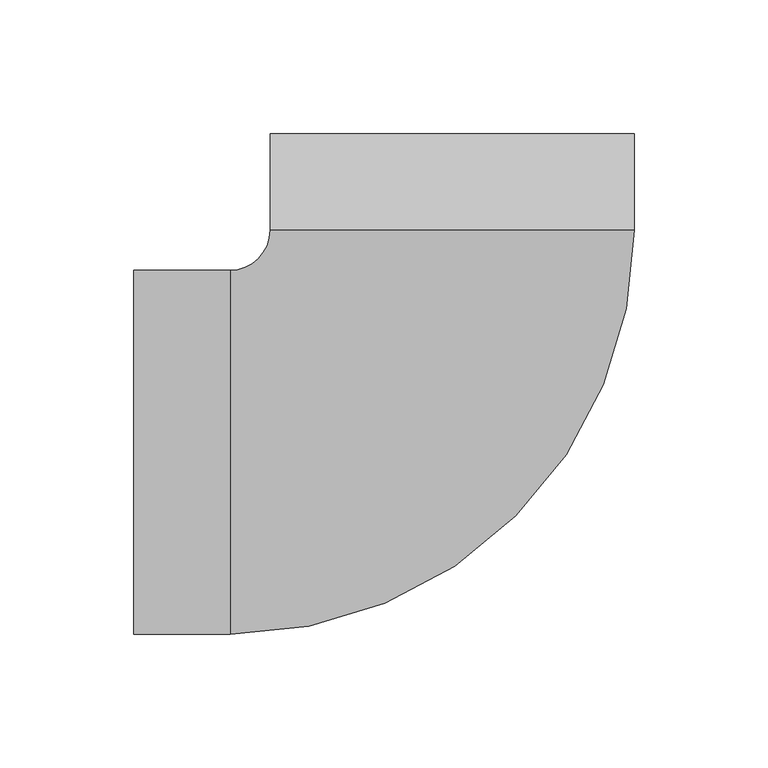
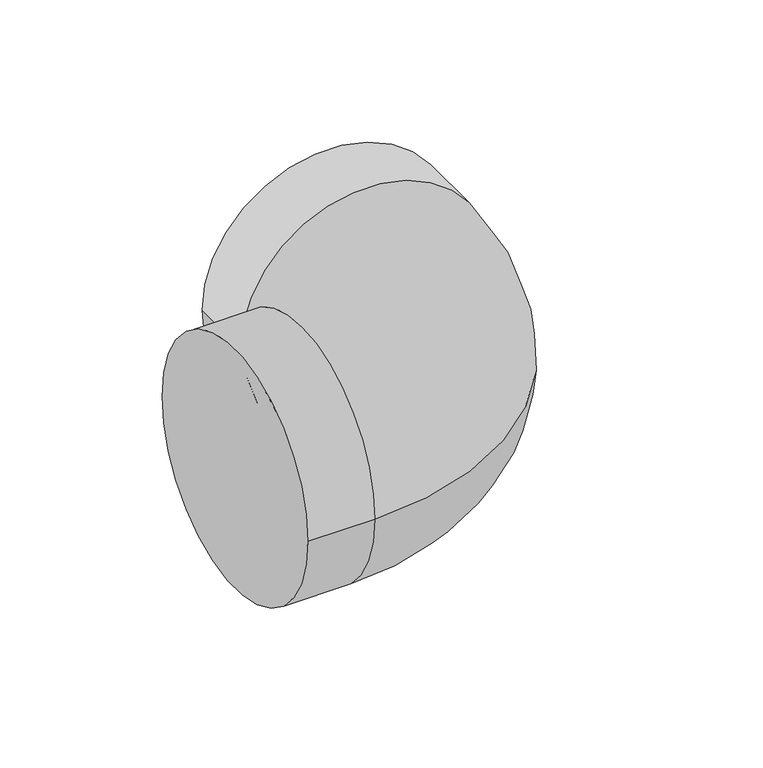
"""IFC4 building model written with IfcOpenShell, lengths in millimetres: pipe fitting geometry, PipeFitting_HTA_CPVC_Elbows : 110mm x 90°."""

import ifcopenshell
import ifcopenshell.guid

model = None  # the IFC model being written
_history = None  # IfcOwnerHistory: only IFC2X3 demands one
_inside = {}  # id of a spatial element -> (the spatial element, [elements in it])
_under = {}  # id of a project, library or spatial element -> (it, [spatial elements below it])
_declared = {}  # id of a project -> (the project, [libraries it declares])
_typed = {}  # id of a type object -> (the type object, [elements of that type])
_made_of = {}  # id of a material, layer set ... -> (it, [elements and type objects made of it])


def new_model(schema):
    """Start an empty IFC model of exactly this schema.

    Asked for "IFC4X3", IfcOpenShell would pick the latest addendum, in which some entities
    have other attributes; the version numbers below select the first issue.
    IFC2X3 requires an IfcOwnerHistory on every rooted entity: one is made here for all.
    """
    global model, _history
    if schema == "IFC4X3":
        model = ifcopenshell.file(schema_version=(4, 3, 0, 0))
    else:
        model = ifcopenshell.file(schema=schema)
    _inside.clear()
    _under.clear()
    _declared.clear()
    _typed.clear()
    _made_of.clear()
    _history = None
    if model.schema == "IFC2X3":
        org = make("IfcOrganization", Name="unknown")
        user = make(
            "IfcPersonAndOrganization",
            ThePerson=make("IfcPerson", FamilyName="unknown"),
            TheOrganization=org,
        )
        app = make(
            "IfcApplication",
            ApplicationDeveloper=org,
            Version="unknown",
            ApplicationFullName="unknown",
            ApplicationIdentifier="unknown",
        )
        _history = make(
            "IfcOwnerHistory",
            OwningUser=user,
            OwningApplication=app,
            ChangeAction="ADDED",
            CreationDate=0,
        )
    return model


def make(cls, **values):
    """One entity of the class cls with the attributes given. An attribute that is None is left unset."""
    return model.create_entity(
        cls, **{name: value for name, value in values.items() if value is not None}
    )


def rooted(cls, **values):
    """An entity with a GlobalId (a new one), such as an element, a storey or a relation."""
    return make(cls, GlobalId=ifcopenshell.guid.new(), OwnerHistory=_history, **values)


def si_unit(unit_type, name, prefix=None):
    """IfcSIUnit, for example si_unit("LENGTHUNIT", "METRE", prefix="MILLI")."""
    return make("IfcSIUnit", UnitType=unit_type, Prefix=prefix, Name=name)


def assignment(units):
    """IfcUnitAssignment: the units of a project."""
    return None if units is None else make("IfcUnitAssignment", Units=units)


def point(xyz):
    """IfcCartesianPoint."""
    return None if xyz is None else make("IfcCartesianPoint", Coordinates=xyz)


def direction(xyz):
    """IfcDirection."""
    return None if xyz is None else make("IfcDirection", DirectionRatios=xyz)


def frame(location, z_axis=None, x_axis=None):
    """IfcAxis2Placement3D, a coordinate frame: its origin and axes. An axis left out is left unset."""
    return make(
        "IfcAxis2Placement3D",
        Location=point(location),
        Axis=direction(z_axis),
        RefDirection=direction(x_axis),
    )


def origin():
    """The frame at (0, 0, 0) with its axes left unset."""
    return frame((0.0, 0.0, 0.0))


def place(relative_to, where):
    """IfcLocalPlacement: puts the frame where relative to a parent placement (None: the world)."""
    return make(
        "IfcLocalPlacement", PlacementRelTo=relative_to, RelativePlacement=where
    )


def context(
    kind, dimensions, precision=None, world=None, true_north=None, identifier=None
):
    """IfcGeometricRepresentationContext, for example the 3D "Model" context."""
    return make(
        "IfcGeometricRepresentationContext",
        ContextIdentifier=identifier,
        ContextType=kind,
        CoordinateSpaceDimension=dimensions,
        Precision=precision,
        WorldCoordinateSystem=world,
        TrueNorth=true_north,
    )


def project(units=None, contexts=None):
    """IfcProject with its units and contexts."""
    return rooted(
        "IfcProject",
        Name="project",
        RepresentationContexts=contexts,
        UnitsInContext=assignment(units),
    )


def spatial(cls, under=None, at=None, **own):
    """A site, building, storey or space (cls), placed at a placement, below another one or the project."""
    s = rooted(cls, ObjectPlacement=at, **own)
    if under is not None:
        _under.setdefault(under.id(), (under, []))[1].append(s)
    return s


def circle_curve(where, radius):
    """IfcCircle in the frame where."""
    return make("IfcCircle", Position=where, Radius=radius)


def ellipse_curve(where, semi_axis1, semi_axis2):
    """IfcEllipse in the frame where."""
    return make(
        "IfcEllipse", Position=where, SemiAxis1=semi_axis1, SemiAxis2=semi_axis2
    )


def trimmed(basis, trim1, trim2, sense, master):
    """IfcTrimmedCurve: the piece of a basis curve between two trims."""
    return make(
        "IfcTrimmedCurve",
        BasisCurve=basis,
        Trim1=trim1,
        Trim2=trim2,
        SenseAgreement=sense,
        MasterRepresentation=master,
    )


def shape(context_of_items, identifier, shape_type, items):
    """IfcShapeRepresentation: the items that make up one representation, for example the "Body"."""
    return make(
        "IfcShapeRepresentation",
        ContextOfItems=context_of_items,
        RepresentationIdentifier=identifier,
        RepresentationType=shape_type,
        Items=items,
    )


def source(mapping_origin, context_of_items, identifier, shape_type, items):
    """IfcRepresentationMap: a shape defined once, which mapped items show again and again."""
    return make(
        "IfcRepresentationMap",
        MappingOrigin=mapping_origin,
        MappedRepresentation=shape(context_of_items, identifier, shape_type, items),
    )


def transform(
    local_origin,
    x_axis=None,
    y_axis=None,
    z_axis=None,
    scale=None,
    scale2=None,
    scale3=None,
    uniform=True,
):
    """IfcCartesianTransformationOperator3D, or its non-uniform kind. x_axis, y_axis, z_axis: its Axis1, 2, 3."""
    if uniform:
        return make(
            "IfcCartesianTransformationOperator3D",
            Axis1=direction(x_axis),
            Axis2=direction(y_axis),
            LocalOrigin=point(local_origin),
            Scale=scale,
            Axis3=direction(z_axis),
        )
    return make(
        "IfcCartesianTransformationOperator3DnonUniform",
        Axis1=direction(x_axis),
        Axis2=direction(y_axis),
        LocalOrigin=point(local_origin),
        Scale=scale,
        Axis3=direction(z_axis),
        Scale2=scale2,
        Scale3=scale3,
    )


def mapped(mapping_source, mapping_target):
    """IfcMappedItem: shows the shape of a source again, moved by a transform."""
    return make(
        "IfcMappedItem", MappingSource=mapping_source, MappingTarget=mapping_target
    )


def made_of(thing, what):
    """Note that an element or type object is made of a material, layer set ...; save() writes the relation."""
    if what is not None:
        _made_of.setdefault(what.id(), (what, []))[1].append(thing)
    return thing


def element(
    cls,
    number,
    at=None,
    inside=None,
    cuts=None,
    type_object=None,
    material=None,
    context=None,
    identifier="Body",
    shape_type=None,
    held_by="IfcProductDefinitionShape",
    body=None,
    shapes=None,
    **own,
):
    """One element of the class cls, such as IfcWall. Its Tag is "e" and its number.

    at: its placement. inside: the storey or other place that contains it. cuts: it is an
    opening in that element (IfcRelVoidsElement). A single representation is given by context,
    identifier, shape_type and body (its items); several are given by shapes. held_by: the class
    of the entity that holds the representations. save() writes the other relations.
    """
    e = rooted(cls, Tag="e%d" % number, ObjectPlacement=at, **own)
    if body is not None:
        shapes = [shape(context, identifier, shape_type, body)]
    if shapes is not None:
        e.Representation = make(held_by, Representations=shapes)
    if inside is not None:
        _inside.setdefault(inside.id(), (inside, []))[1].append(e)
    if cuts is not None:
        rooted(
            "IfcRelVoidsElement", RelatingBuildingElement=cuts, RelatedOpeningElement=e
        )
    if type_object is not None:
        _typed.setdefault(type_object.id(), (type_object, []))[1].append(e)
    return made_of(e, material)


def aggregate(whole, parts):
    """IfcRelAggregates: a whole, such as a stair, and the parts it consists of."""
    return rooted("IfcRelAggregates", RelatingObject=whole, RelatedObjects=parts)


def save(model, path):
    """Write the relations noted so far, then the file.

    IfcRelAggregates (storeys below a building ...), IfcRelContainedInSpatialStructure (elements
    in a storey), IfcRelDefinesByType, IfcRelAssociatesMaterial and IfcRelDeclares: one each for
    every whole, place, type object, material and project.
    """
    for whole, parts in _under.values():
        aggregate(whole, parts)
    for where, things in _inside.values():
        rooted(
            "IfcRelContainedInSpatialStructure",
            RelatedElements=things,
            RelatingStructure=where,
        )
    for kind, things in _typed.values():
        rooted("IfcRelDefinesByType", RelatedObjects=things, RelatingType=kind)
    for what, things in _made_of.values():
        rooted("IfcRelAssociatesMaterial", RelatedObjects=things, RelatingMaterial=what)
    for by, libraries in _declared.values():
        rooted("IfcRelDeclares", RelatingContext=by, RelatedDefinitions=libraries)
    model.write(path)


def plane_surface(at):
    """IfcPlane: the flat surface through the origin of the frame at, square to its z axis."""
    return make("IfcPlane", Position=at)


def cylinder_surface(at, radius):
    """IfcCylindricalSurface: all points at the distance radius from the z axis of the frame at."""
    return make("IfcCylindricalSurface", Position=at, Radius=radius)


def revolved_surface(curve, axis_point, axis_direction):
    """IfcSurfaceOfRevolution: the curve turned about the line through axis_point along axis_direction."""
    return make(
        "IfcSurfaceOfRevolution",
        SweptCurve=make("IfcArbitraryOpenProfileDef", ProfileType="CURVE", Curve=curve),
        AxisPosition=make("IfcAxis1Placement", Location=point(axis_point), Axis=direction(axis_direction)),
    )


def advanced_brep(points, edges, surfaces, faces):
    """IfcAdvancedBrep: a solid bounded by faces that lie on surfaces and meet in shared edges.

    An edge is (start, end): straight between two places in points (the first is 0);
    or (start, end, curve); or (start, end, curve, False) where it runs against its curve.
    A face is (place in surfaces, loops), or (place, loops, False) where it looks against
    its surface's normal. A loop lists edges by number (the first is 1), with a minus sign
    where the edge is run from its end to its start. The first loop is the outer one.
    """
    corners = [point(p) for p in points]
    vertices = [make("IfcVertexPoint", VertexGeometry=c) for c in corners]
    made = []
    for start, end, *more in edges:
        made.append(
            make(
                "IfcEdgeCurve",
                EdgeStart=vertices[start],
                EdgeEnd=vertices[end],
                EdgeGeometry=more[0] if more else make("IfcPolyline", Points=[corners[start], corners[end]]),
                SameSense=more[1] if len(more) > 1 else True,
            )
        )
    hull = []
    for where, loops, *sense in faces:
        bounds = []
        for j, loop in enumerate(loops):
            ring = [make("IfcOrientedEdge", EdgeElement=made[abs(k) - 1], Orientation=k > 0) for k in loop]
            bounds.append(
                make(
                    "IfcFaceOuterBound" if j == 0 else "IfcFaceBound",
                    Bound=make("IfcEdgeLoop", EdgeList=ring),
                    Orientation=True,
                )
            )
        hull.append(make("IfcAdvancedFace", Bounds=bounds, FaceSurface=surfaces[where], SameSense=sense[0] if sense else True))
    return make("IfcAdvancedBrep", Outer=make("IfcClosedShell", CfsFaces=hull))


def pipe_fitting_5d5e3ccc(model_context):
    return source(origin(), model_context, "Body", "AdvancedBrep", [
        advanced_brep(
        [(-119.0, -68.0, 0.0), (-119.0, 68.0, 0.0), (-83.0, -68.0, 0.0), (-83.0, 68.0, 0.0), (-68.0, 83.0, 0.0), (68.0, 83.0, 0.0), (68.0, 119.0, 0.0), (-68.0, 119.0, 0.0)],
        [
            (0, 1, circle_curve(frame((-119.0, 0.0, 0.0), z_axis=(-1.0, 0.0, 0.0), x_axis=(0.0, 1.0, 0.0)), 68.0)),
            (1, 0, circle_curve(frame((-119.0, 0.0, 0.0), z_axis=(-1.0, 0.0, 0.0), x_axis=(0.0, 1.0, 0.0)), 68.0)),
            (0, 2),
            (2, 3, circle_curve(frame((-83.0, 0.0, 0.0), z_axis=(-1.0, 0.0, 0.0), x_axis=(0.0, 1.0, 0.0)), 68.0)),
            (3, 1),
            (3, 2, circle_curve(frame((-83.0, 0.0, 0.0), z_axis=(-1.0, 0.0, 0.0), x_axis=(0.0, 1.0, 0.0)), 68.0)),
            (4, 3, circle_curve(frame((-83.0, 83.0, 0.0), z_axis=(0.0, 0.0, -1.0), x_axis=(0.0, -1.0, 0.0)), 15.0)),
            (2, 5, circle_curve(frame((-83.0, 83.0, 0.0), z_axis=(0.0, 0.0, 1.0), x_axis=(0.0, -1.0, 0.0)), 151.0)),
            (5, 4, circle_curve(frame((0.0, 83.0, 0.0), z_axis=(0.0, -1.0, 0.0), x_axis=(-1.0, 0.0, 0.0)), 68.0)),
            (4, 5, circle_curve(frame((0.0, 83.0, 0.0), z_axis=(0.0, -1.0, 0.0), x_axis=(-1.0, 0.0, 0.0)), 68.0)),
            (6, 7, circle_curve(frame((0.0, 119.0, 0.0), z_axis=(0.0, 1.0, 0.0), x_axis=(-1.0, 0.0, 0.0)), 68.0)),
            (7, 6, circle_curve(frame((0.0, 119.0, 0.0), z_axis=(0.0, 1.0, 0.0), x_axis=(-1.0, 0.0, 0.0)), 68.0)),
            (5, 6),
            (7, 4),
        ],
        [
            plane_surface(frame((-119.0, 0.0, 0.0), z_axis=(-1.0, 0.0, 0.0), x_axis=(0.0, 0.0, 1.0))),
            cylinder_surface(frame((-119.0, 0.0, 0.0), z_axis=(-1.0, 0.0, 0.0), x_axis=(0.0, 1.0, 0.0)), 68.0),
            revolved_surface(trimmed(ellipse_curve(frame((-83.0, 0.0, 0.0), z_axis=(-1.0, 0.0, 0.0), x_axis=(0.0, 1.0, 0.0)), 68.0, 68.0), [point((-83.0, -68.0, 0.0))], [point((-83.0, 68.0, 0.0))], True, "CARTESIAN"), (-83.0, 83.0, 0.0), (0.0, 0.0, 1.0)),
            revolved_surface(trimmed(ellipse_curve(frame((-83.0, 0.0, 0.0), z_axis=(-1.0, 0.0, 0.0), x_axis=(0.0, 1.0, 0.0)), 68.0, 68.0), [point((-83.0, 68.0, 0.0))], [point((-83.0, -68.0, 0.0))], True, "CARTESIAN"), (-83.0, 83.0, 0.0), (0.0, 0.0, 1.0)),
            plane_surface(frame((0.0, 119.0, 0.0), z_axis=(0.0, 1.0, 0.0), x_axis=(0.0, 0.0, 1.0))),
            cylinder_surface(frame((0.0, 83.0, 0.0), z_axis=(0.0, -1.0, 0.0), x_axis=(-1.0, 0.0, 0.0)), 68.0),
        ],
        [
            (0, [[1, 2]]),
            (1, [[-1, 3, 4, 5]]),
            (1, [[-2, -5, 6, -3]]),
            (2, [[7, -4, 8, 9]]),
            (3, [[-8, -6, -7, 10]]),
            (4, [[11, 12]]),
            (5, [[-9, 13, -12, 14]]),
            (5, [[-10, -14, -11, -13]]),
        ],
    ),
    ])


if __name__ == "__main__":
    model = new_model("IFC4")
    model_context = context("Model", 3, world=origin())
    ifc_project = project(units=[si_unit("LENGTHUNIT", "METRE", prefix="MILLI")], contexts=[model_context])
    site = spatial("IfcSite", under=ifc_project)
    building = spatial("IfcBuilding", under=site)
    placement = place(None, origin())
    pipe_fitting_shape = pipe_fitting_5d5e3ccc(model_context)
    element("IfcPipeFitting", 1, ObjectType="PipeFitting_HTA_CPVC_Elbows : 110mm x 90°", at=placement, inside=building, context=model_context, shape_type="MappedRepresentation", body=[
        mapped(pipe_fitting_shape, transform((0.0, 0.0, 0.0), x_axis=(1.0, 0.0, 0.0), y_axis=(0.0, 1.0, 0.0), z_axis=(0.0, 0.0, 1.0))),
    ])
    save(model, "model.ifc")
